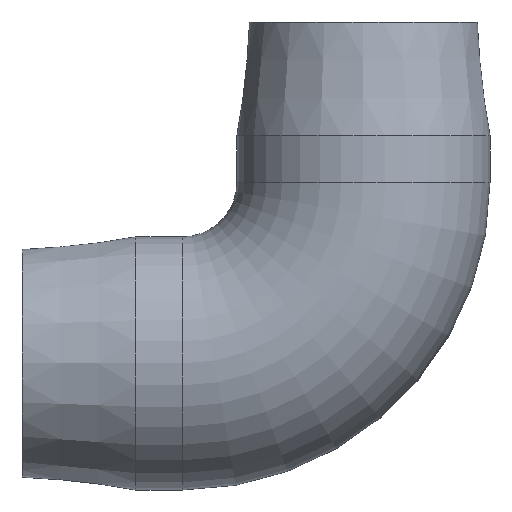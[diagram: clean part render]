
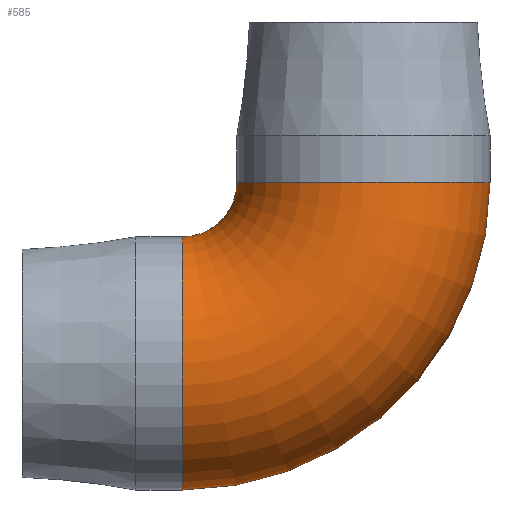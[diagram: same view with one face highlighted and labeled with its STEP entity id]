
A CAD part, front view. The second image highlights one B-rep face of the part: STEP entity #585.
In plain terms, the highlighted toroidal (fillet/blend) face has major radius 80.289 mm and minor radius 56.134 mm.
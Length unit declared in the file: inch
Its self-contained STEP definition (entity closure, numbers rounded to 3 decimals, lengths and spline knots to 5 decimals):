
#32=TOROIDAL_SURFACE('',#649,3.161,2.21);
#116=FACE_OUTER_BOUND('',#150,.T.);
#150=EDGE_LOOP('',(#411,#412,#413,#414,#415,#416,#417,#418));
#195=CIRCLE('',#650,2.21);
#196=CIRCLE('',#651,2.21);
#197=CIRCLE('',#652,0.951);
#198=CIRCLE('',#653,2.21);
#199=CIRCLE('',#654,2.21);
#200=CIRCLE('',#655,2.21);
#201=CIRCLE('',#656,2.21);
#247=VERTEX_POINT('',#949);
#248=VERTEX_POINT('',#950);
#249=VERTEX_POINT('',#952);
#250=VERTEX_POINT('',#954);
#251=VERTEX_POINT('',#956);
#252=VERTEX_POINT('',#958);
#313=EDGE_CURVE('',#247,#248,#195,.T.);
#314=EDGE_CURVE('',#248,#249,#196,.T.);
#315=EDGE_CURVE('',#249,#250,#197,.T.);
#316=EDGE_CURVE('',#250,#251,#198,.T.);
#317=EDGE_CURVE('',#251,#252,#199,.T.);
#318=EDGE_CURVE('',#252,#250,#200,.T.);
#319=EDGE_CURVE('',#249,#247,#201,.T.);
#411=ORIENTED_EDGE('',*,*,#313,.T.);
#412=ORIENTED_EDGE('',*,*,#314,.T.);
#413=ORIENTED_EDGE('',*,*,#315,.T.);
#414=ORIENTED_EDGE('',*,*,#316,.T.);
#415=ORIENTED_EDGE('',*,*,#317,.T.);
#416=ORIENTED_EDGE('',*,*,#318,.T.);
#417=ORIENTED_EDGE('',*,*,#315,.F.);
#418=ORIENTED_EDGE('',*,*,#319,.T.);
#585=ADVANCED_FACE('',(#116),#32,.T.);
#649=AXIS2_PLACEMENT_3D('',#948,#757,#758);
#650=AXIS2_PLACEMENT_3D('',#951,#759,#760);
#651=AXIS2_PLACEMENT_3D('',#953,#761,#762);
#652=AXIS2_PLACEMENT_3D('',#955,#763,#764);
#653=AXIS2_PLACEMENT_3D('',#957,#765,#766);
#654=AXIS2_PLACEMENT_3D('',#959,#767,#768);
#655=AXIS2_PLACEMENT_3D('',#960,#769,#770);
#656=AXIS2_PLACEMENT_3D('',#961,#771,#772);
#757=DIRECTION('center_axis',(0.,-1.,0.));
#758=DIRECTION('ref_axis',(0.,0.,-1.));
#759=DIRECTION('center_axis',(0.,0.,
-1.));
#760=DIRECTION('ref_axis',(-1.,0.,0.));
#761=DIRECTION('center_axis',(0.,0.,
-1.));
#762=DIRECTION('ref_axis',(-1.,0.,0.));
#763=DIRECTION('center_axis',(0.,1.,0.));
#764=DIRECTION('ref_axis',(0.,0.,-1.));
#765=DIRECTION('center_axis',(1.,0.,0.));
#766=DIRECTION('ref_axis',(0.,0.,-1.));
#767=DIRECTION('center_axis',(1.,0.,0.));
#768=DIRECTION('ref_axis',(0.,0.,-1.));
#769=DIRECTION('center_axis',(1.,0.,0.));
#770=DIRECTION('ref_axis',(0.,0.,-1.));
#771=DIRECTION('center_axis',(0.,0.,
-1.));
#772=DIRECTION('ref_axis',(-1.,0.,0.));
#948=CARTESIAN_POINT('Origin',(-3.161,0.,3.161));
#949=CARTESIAN_POINT('',(0.,2.21,3.161));
#950=CARTESIAN_POINT('',(0.,-2.21,3.161));
#951=CARTESIAN_POINT('Origin',(0.,0.,
3.161));
#952=CARTESIAN_POINT('',(-2.21,0.,3.161));
#953=CARTESIAN_POINT('Origin',(0.,0.,
3.161));
#954=CARTESIAN_POINT('',(-3.161,0.,2.21));
#955=CARTESIAN_POINT('Origin',(-3.161,0.,3.161));
#956=CARTESIAN_POINT('',(-3.161,-2.21,0.));
#957=CARTESIAN_POINT('Origin',(-3.161,0.,0.));
#958=CARTESIAN_POINT('',(-3.161,2.21,0.));
#959=CARTESIAN_POINT('Origin',(-3.161,0.,0.));
#960=CARTESIAN_POINT('Origin',(-3.161,0.,0.));
#961=CARTESIAN_POINT('Origin',(0.,0.,
3.161));
